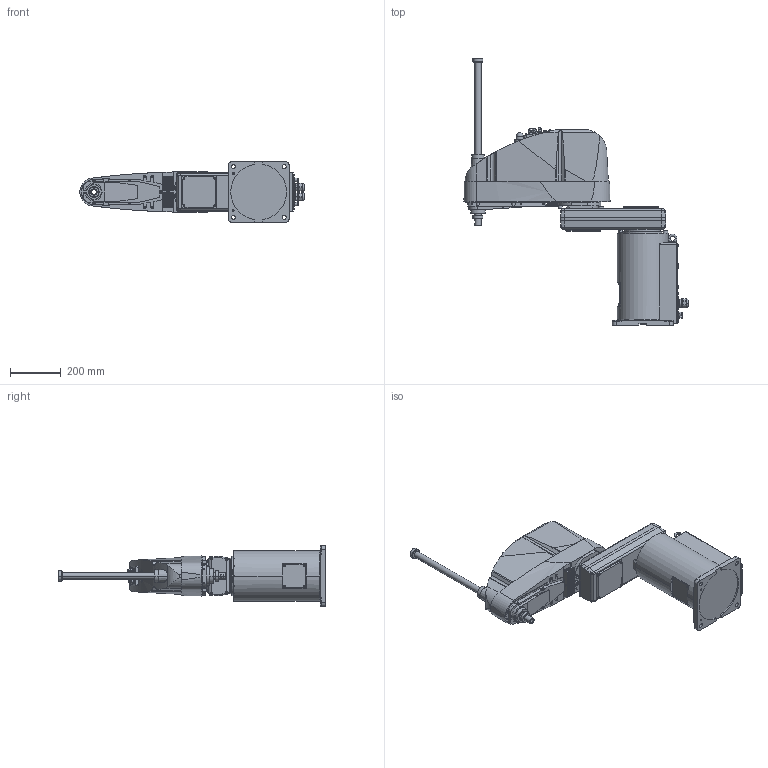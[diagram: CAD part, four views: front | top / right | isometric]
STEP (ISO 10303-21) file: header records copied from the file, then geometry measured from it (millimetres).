
FILE_DESCRIPTION( ( '' ), '1' );
FILE_NAME( '//expscmdclustefs.cadenas.external/client_exchange/iodir/jobs/output/wkb51511088_no0/STEP/G10_654S_2_03.stp', '2012-11-22T15:07:16', ( '' ), ( '' ), ' ', ' ', ' ' );
FILE_SCHEMA( ( 'CONFIG_CONTROL_DESIGN' ) );
Length unit declared in the file: millimetre
Products named in the file (4): 1; 2; 3; 4
Bounding box: 884.5 x 1053.5 x 240 mm (x, y, z)
Volume: 38198114.8 mm3; surface area: 1369200.3 mm2
Topology: 4 solids, 5 shells, 1912 faces, 4695 edges, 3050 vertices
Faces by surface type: plane 1076, cylinder 612, cone 184, torus 39, sphere 1
Entity records: 58023 total; most frequent: CARTESIAN_POINT 11476, DIRECTION 9909, ORIENTED_EDGE 9374, EDGE_CURVE 4687, AXIS2_PLACEMENT_3D 3445, VERTEX_POINT 3050, LINE 3019, VECTOR 3019
